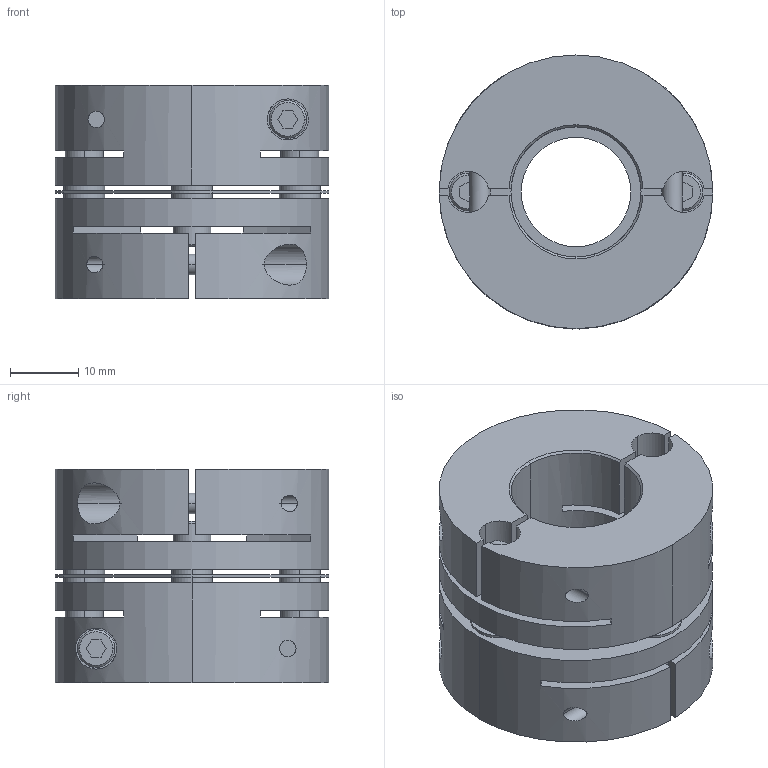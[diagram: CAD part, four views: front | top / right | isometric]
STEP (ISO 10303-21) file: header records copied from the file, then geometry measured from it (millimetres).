
FILE_DESCRIPTION((''),'2;1');
FILE_NAME('LAS-40C-18×19.stp','2014-02-05T09:02:40',(''),(''),'AutoCAD STEP 2000i','AutoCAD 2000i',', , ');
FILE_SCHEMA(('CONFIG_CONTROL_DESIGN'));
Length unit declared in the file: millimetre
Products named in the file (7): LAS-40C-15×15; 忣兜1; LA-4002-D15-1; LA-4002-D15; LA-4002-D10-1; LA-4002-D10; LAS40-ITA
Assembly tree (6 placements, depth 2):
  LAS-40C-15×15
    忣兜1
    LA-4002-D15-1
    LA-4002-D15
    LA-4002-D10-1
    LA-4002-D10
    LAS40-ITA
Bounding box: 40 x 40 x 31.2 mm (x, y, z)
Volume: 26525.3 mm3; surface area: 14738.2 mm2
Topology: 1 solids, 1 shells, 236 faces, 624 edges, 408 vertices
Faces by surface type: plane 112, cylinder 96, cone 28
Entity records: 8247 total; most frequent: CARTESIAN_POINT 2027, DIRECTION 1306, ORIENTED_EDGE 1248, EDGE_CURVE 624, AXIS2_PLACEMENT_3D 479, VERTEX_POINT 408, VECTOR 348, LINE 348
